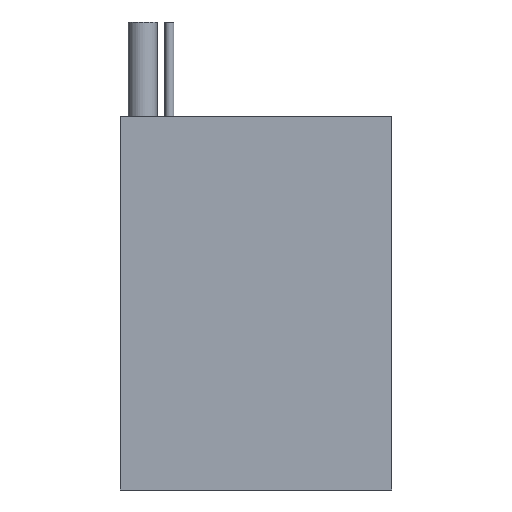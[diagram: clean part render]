
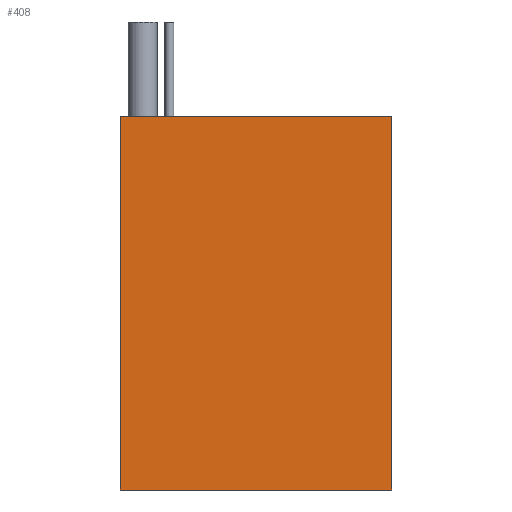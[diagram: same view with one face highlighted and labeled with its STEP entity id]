
A CAD part, front view. The second image highlights one B-rep face of the part: STEP entity #408.
In plain terms, the highlighted planar face has unit normal (0, -1, 0).
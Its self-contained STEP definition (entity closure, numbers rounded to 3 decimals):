
#56 = EDGE_CURVE ( 'NONE', #426, #974, #1141, .T. ) ;
#107 = ORIENTED_EDGE ( 'NONE', *, *, #56, .F. ) ;
#161 = LINE ( 'NONE', #195, #401 ) ;
#195 = CARTESIAN_POINT ( 'NONE',  ( 760.781, 421.586, -118. ) ) ;
#220 = DIRECTION ( 'NONE',  ( 1., 0., 0. ) ) ;
#254 = FACE_OUTER_BOUND ( 'NONE', #425, .T. ) ;
#394 = LINE ( 'NONE', #1094, #1273 ) ;
#401 = VECTOR ( 'NONE', #1117, 1000. ) ;
#408 = ADVANCED_FACE ( 'NONE', ( #254 ), #679, .T. ) ;
#425 = EDGE_LOOP ( 'NONE', ( #107, #1261, #1075, #1228 ) ) ;
#426 = VERTEX_POINT ( 'NONE', #673 ) ;
#569 = EDGE_CURVE ( 'NONE', #993, #426, #394, .T. ) ;
#637 = DIRECTION ( 'NONE',  ( 0., 0., -1. ) ) ;
#638 = DIRECTION ( 'NONE',  ( 0., -1., 0. ) ) ;
#668 = CARTESIAN_POINT ( 'NONE',  ( 674.781, 421.586, -118. ) ) ;
#673 = CARTESIAN_POINT ( 'NONE',  ( 674.781, 421.586, 0. ) ) ;
#675 = CARTESIAN_POINT ( 'NONE',  ( 674.781, 421.586, 0. ) ) ;
#679 = PLANE ( 'NONE',  #852 ) ;
#716 = VECTOR ( 'NONE', #220, 1000. ) ;
#752 = DIRECTION ( 'NONE',  ( 1., 0., 0. ) ) ;
#754 = CARTESIAN_POINT ( 'NONE',  ( 760.781, 421.586, -118. ) ) ;
#769 = CARTESIAN_POINT ( 'NONE',  ( 674.781, 421.586, -118. ) ) ;
#852 = AXIS2_PLACEMENT_3D ( 'NONE', #668, #638, #637 ) ;
#974 = VERTEX_POINT ( 'NONE', #1316 ) ;
#993 = VERTEX_POINT ( 'NONE', #1199 ) ;
#1061 = VECTOR ( 'NONE', #752, 1000. ) ;
#1075 = ORIENTED_EDGE ( 'NONE', *, *, #1242, .T. ) ;
#1094 = CARTESIAN_POINT ( 'NONE',  ( 674.781, 421.586, -118. ) ) ;
#1115 = DIRECTION ( 'NONE',  ( 0., 0., 1. ) ) ;
#1117 = DIRECTION ( 'NONE',  ( 0., 0., 1. ) ) ;
#1141 = LINE ( 'NONE', #675, #716 ) ;
#1199 = CARTESIAN_POINT ( 'NONE',  ( 674.781, 421.586, -118. ) ) ;
#1228 = ORIENTED_EDGE ( 'NONE', *, *, #1314, .T. ) ;
#1242 = EDGE_CURVE ( 'NONE', #993, #1263, #1339, .T. ) ;
#1261 = ORIENTED_EDGE ( 'NONE', *, *, #569, .F. ) ;
#1263 = VERTEX_POINT ( 'NONE', #754 ) ;
#1273 = VECTOR ( 'NONE', #1115, 1000. ) ;
#1314 = EDGE_CURVE ( 'NONE', #1263, #974, #161, .T. ) ;
#1316 = CARTESIAN_POINT ( 'NONE',  ( 760.781, 421.586, 0. ) ) ;
#1339 = LINE ( 'NONE', #769, #1061 ) ;
